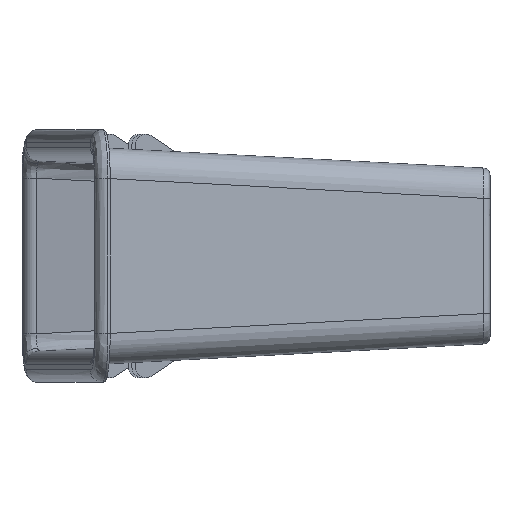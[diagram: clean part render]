
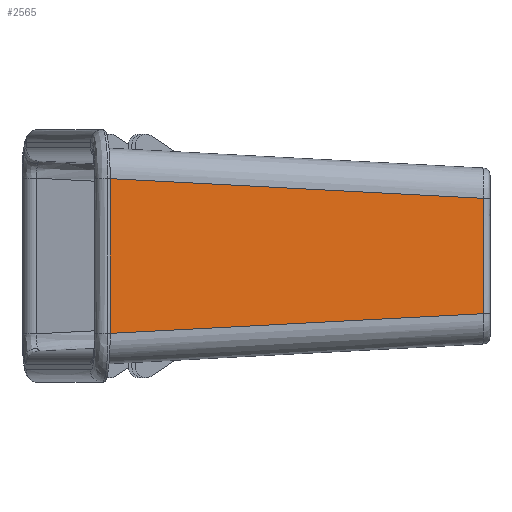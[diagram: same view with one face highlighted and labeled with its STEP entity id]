
A CAD part, left-side view. The second image highlights one B-rep face of the part: STEP entity #2565.
In plain terms, the highlighted planar face has unit normal (-0.992, -0.129, 0).
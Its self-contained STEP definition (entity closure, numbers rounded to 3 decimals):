
#43=PLANE('',#2723);
#154=LINE('',#4699,#398);
#159=LINE('',#5078,#403);
#189=LINE('',#5235,#433);
#217=LINE('',#5363,#461);
#398=VECTOR('',#2926,10.);
#403=VECTOR('',#2931,10.);
#433=VECTOR('',#2967,10.);
#461=VECTOR('',#2999,10.);
#669=FACE_OUTER_BOUND('',#839,.T.);
#839=EDGE_LOOP('',(#1955,#1956,#1957,#1958));
#1142=VERTEX_POINT('',#4636);
#1144=VERTEX_POINT('',#4690);
#1150=VERTEX_POINT('',#5061);
#1178=VERTEX_POINT('',#5234);
#1414=EDGE_CURVE('',#1144,#1142,#154,.T.);
#1426=EDGE_CURVE('',#1150,#1144,#159,.T.);
#1457=EDGE_CURVE('',#1142,#1178,#189,.T.);
#1487=EDGE_CURVE('',#1150,#1178,#217,.T.);
#1955=ORIENTED_EDGE('',*,*,#1414,.F.);
#1956=ORIENTED_EDGE('',*,*,#1426,.F.);
#1957=ORIENTED_EDGE('',*,*,#1487,.T.);
#1958=ORIENTED_EDGE('',*,*,#1457,.F.);
#2565=ADVANCED_FACE('',(#669),#43,.F.);
#2723=AXIS2_PLACEMENT_3D('',#5362,#2997,#2998);
#2926=DIRECTION('',(0.,0.,-1.));
#2931=DIRECTION('',(0.129,-0.99,-0.052));
#2967=DIRECTION('',(-0.129,0.99,-0.052));
#2997=DIRECTION('center_axis',(0.992,0.129,0.));
#2998=DIRECTION('ref_axis',(0.129,-0.992,0.));
#2999=DIRECTION('',(0.,0.,-1.));
#4636=CARTESIAN_POINT('',(-109.057,-18.694,-32.547));
#4690=CARTESIAN_POINT('',(-109.057,-18.694,-9.899));
#4699=CARTESIAN_POINT('',(-109.057,-18.694,0.));
#5061=CARTESIAN_POINT('',(-118.675,55.,-6.004));
#5078=CARTESIAN_POINT('',(-116.907,41.454,-6.72));
#5234=CARTESIAN_POINT('',(-118.675,55.,-36.442));
#5235=CARTESIAN_POINT('',(-116.763,40.354,-35.668));
#5362=CARTESIAN_POINT('Origin',(-118.675,55.,0.));
#5363=CARTESIAN_POINT('',(-118.675,55.,0.));
